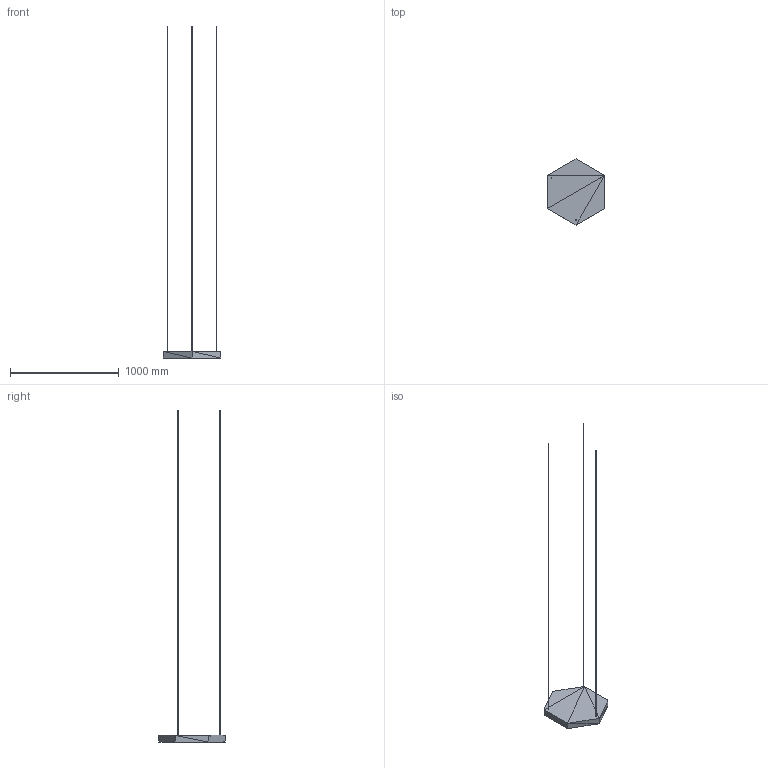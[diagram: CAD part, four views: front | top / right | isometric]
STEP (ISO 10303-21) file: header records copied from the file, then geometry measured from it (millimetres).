
FILE_DESCRIPTION(('ISINAC STEP AP214'),'2;1');
FILE_NAME('ISINAC_HEX.305_60mm_COLGADO','2026-05-03T10:49:19',('ISINAC'),('www.isinac.com'),'ISINAC BIM Generator 1.0','','');
FILE_SCHEMA(('AUTOMOTIVE_DESIGN'));
Length unit declared in the file: millimetre
Products named in the file (1): ISINAC_HEX.305_60mm_COLGADO
Bounding box: 528.28 x 610 x 3060 mm (x, y, z)
Surface area: 674205.9 mm2 (no closed solid volume)
Topology: 0 solids, 80 shells, 80 faces, 240 edges, 240 vertices
Faces by surface type: plane 80
Entity records: 893 total; most frequent: CARTESIAN_POINT 320, DIRECTION 160, POLY_LOOP 80, FACE_OUTER_BOUND 80, AXIS2_PLACEMENT_3D 80, PLANE 80, FACE_SURFACE 80, CLOSED_SHELL 1
